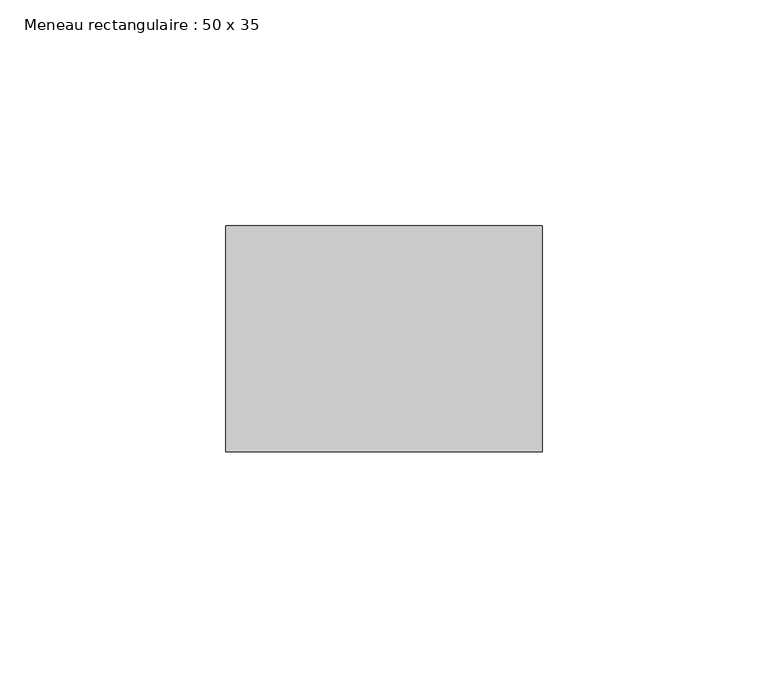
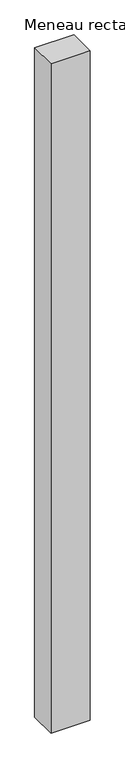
"""IFC4 building model written with IfcOpenShell, lengths in millimetres: member geometry, Meneau rectangulaire : 50 x 35."""

from ifc_helpers import new_model, si_unit, frame, origin, place, context, project, spatial, polyline, outline, extrude, source, transform, mapped, element, save


def meneau_rectangulaire_50_x_35_67095a8b(model_context):
    return source(origin(), model_context, "Body", "SweptSolid", [
        extrude(outline(polyline([(0.0, 0.0), (0.0, -50.0), (-70.0, -50.0), (-70.0, 0.0), (0.0, 0.0)])), frame((0.0, 0.0, -1265.7230943), z_axis=(0.0, 0.0, 1.0), x_axis=(1.0, 0.0, 0.0)), (0.0, 0.0, 1.0), 1265.7230943),
    ])


if __name__ == "__main__":
    model = new_model("IFC4")
    model_context = context("Model", 3, world=origin())
    ifc_project = project(units=[si_unit("LENGTHUNIT", "METRE", prefix="MILLI")], contexts=[model_context])
    site = spatial("IfcSite", under=ifc_project)
    building = spatial("IfcBuilding", under=site)
    placement = place(None, origin())
    meneau_rectangulaire_50_x_35_shape = meneau_rectangulaire_50_x_35_67095a8b(model_context)
    element("IfcMember", 1, ObjectType="Meneau rectangulaire : 50 x 35", at=placement, inside=building, context=model_context, shape_type="MappedRepresentation", body=[
        mapped(meneau_rectangulaire_50_x_35_shape, transform((0.0, 0.0, 0.0), x_axis=(1.0, 0.0, 0.0), y_axis=(0.0, 1.0, 0.0), z_axis=(0.0, 0.0, 1.0))),
    ])
    save(model, "model.ifc")
